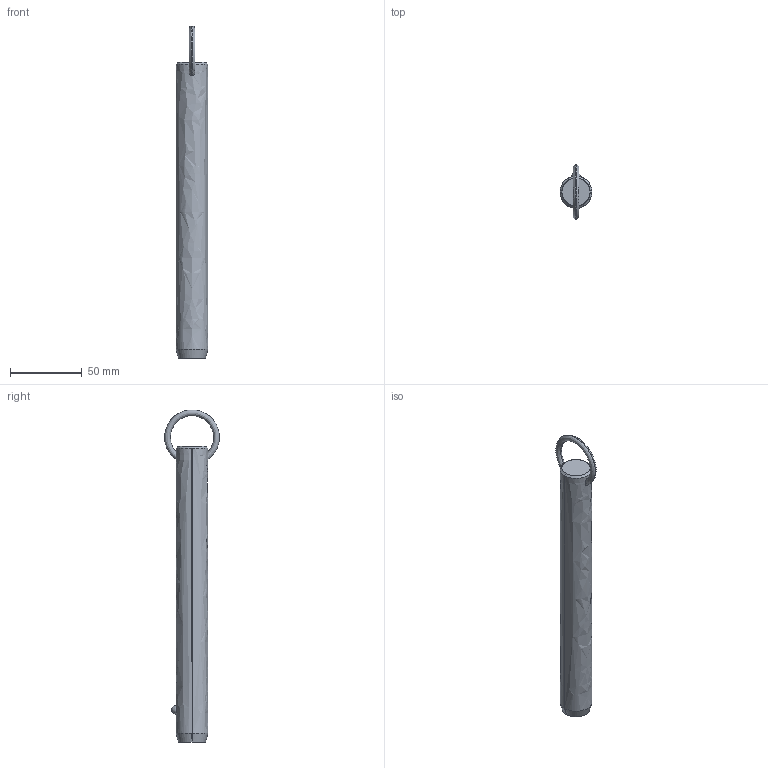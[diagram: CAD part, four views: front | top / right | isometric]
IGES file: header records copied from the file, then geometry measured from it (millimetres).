
Start section: SolidWorks IGES file using analytic representation for surfaces
Global section: file name: C:\Users\liam_\OneDrive\Documents\WORK\Work for WixRoyd\Job Files\J-00019 - Matt Davis CAD Checking\04. CAD Drawings\automotion20190605\P1250.2_v2\P1250.2_v2_20190729_IGES\P1250.087-660.igs; native system: SolidWorks 2017; preprocessor: SolidWorks 2017; author: liam_; date: 190730.172750; units: millimetre
Bounding box: 22.2 x 38.07 x 231.09 mm (x, y, z)
Surface area: 15990 mm2 (no closed solid volume)
Topology: 0 solids, 0 shells, 12 faces, 302 edges, 300 vertices
Faces by surface type: revolution 8, bspline 4
